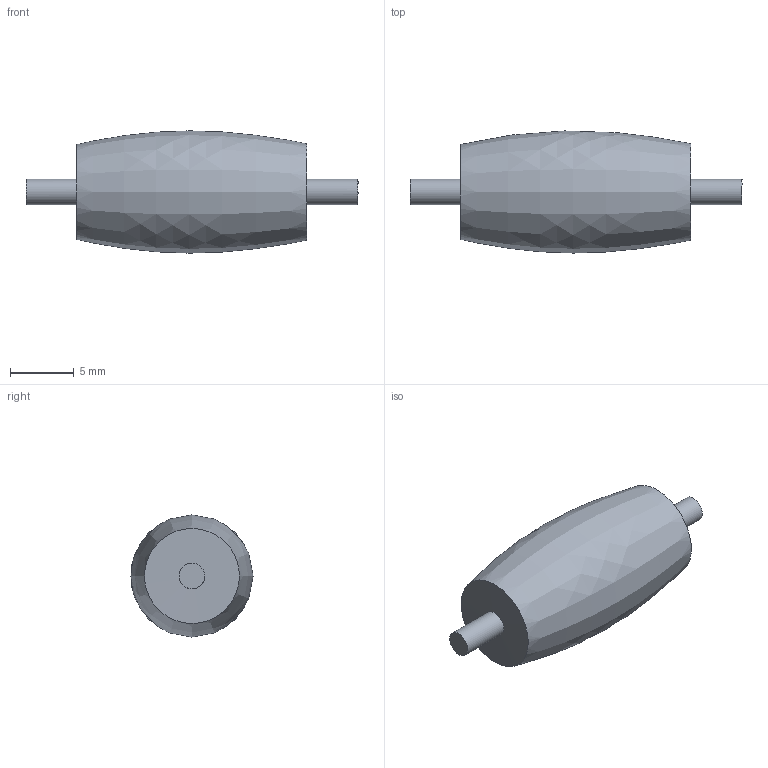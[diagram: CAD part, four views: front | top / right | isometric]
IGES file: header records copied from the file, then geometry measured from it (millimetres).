
Global section: file name: roller assembly; native system: unknown; preprocessor: unknown; author: igauravwadhwa; organization: unknown; date: 20180606.141758; units: millimetre
Bounding box: 26 x 9.56 x 9.57 mm (x, y, z)
Volume: 1141.6 mm3; surface area: 870.4 mm2
Topology: 2 solids, 2 shells, 7 faces, 13 edges, 9 vertices
Faces by surface type: bspline 7
